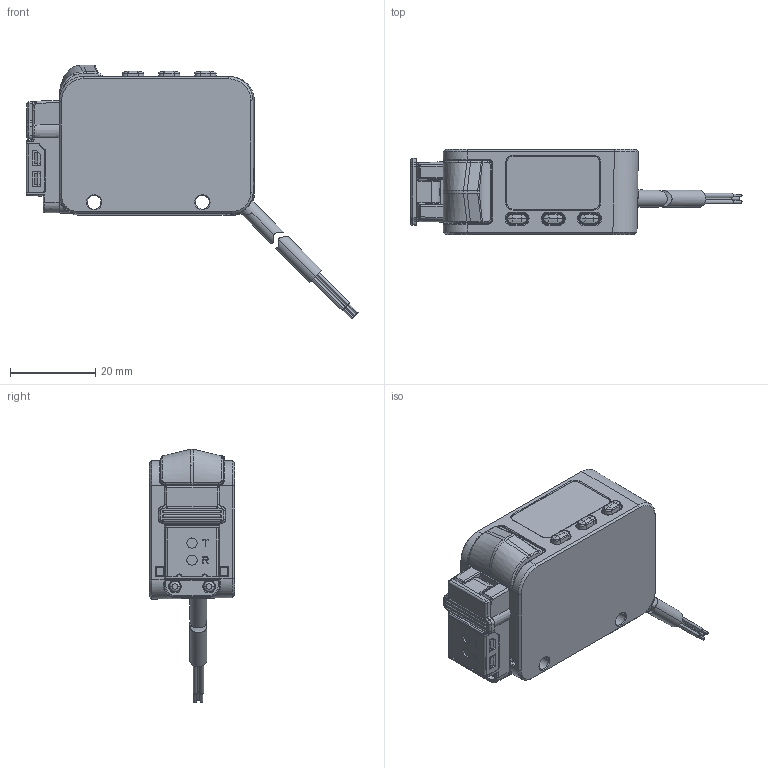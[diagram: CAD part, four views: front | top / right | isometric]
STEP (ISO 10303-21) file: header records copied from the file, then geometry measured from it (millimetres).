
FILE_DESCRIPTION((''),'2;1');
FILE_NAME('0001_ASM_ASM','2023-01-31T15:17:14',('HP'),(''),'CREO PARAMETRIC BY PTC INC, 2019224','CREO PARAMETRIC BY PTC INC, 2019224','');
FILE_SCHEMA(('CONFIG_CONTROL_DESIGN','SHAPE_APPEARANCE_LAYERS_GROUPS'));
Products named in the file (21): 50-0130030-00_1; 50-0130026-00_1; 50-0110034-0001_1; 00_1-30031_1_1; 00_1-30031_2_1; 50-0100011-00_ASM_1_ASM; 50-0130028-0001_1; 00_1; 0002_ASM_1_ASM; ST100_1; M100_1; 50-0140073-0001_1; 50-0140079-0001_1; 50-0140077-00_1; 50-0140081-00_1; 50-0140081-100_1; 50-0140081-1100_1; ADMI26984BFAE51W_ASM_1_ASM; _-202209190001_ASM_1_ASM; 0001_ASM_1_ASM; 0001_ASM_ASM
Assembly tree (21 placements, depth 5):
  0001_ASM_ASM
    0001_ASM_1_ASM
      0002_ASM_1_ASM
        50-0130030-00_1
        50-0130026-00_1
        50-0110034-0001_1
        50-0100011-00_ASM_1_ASM
          00_1-30031_1_1
          00_1-30031_2_1
        50-0130028-0001_1
        00_1  x2
      ST100_1
      M100_1
      _-202209190001_ASM_1_ASM
        ADMI26984BFAE51W_ASM_1_ASM
          50-0140073-0001_1
          50-0140079-0001_1
          50-0140077-00_1
          50-0140081-00_1
          50-0140081-100_1
          50-0140081-1100_1
Bounding box: 77.93 x 20 x 59.51 mm (x, y, z)
Volume: 30904.7 mm3; surface area: 15434.6 mm2
Topology: 14 solids, 21 shells, 1779 faces, 4627 edges, 2973 vertices
Faces by surface type: plane 871, cylinder 427, bspline 192, cone 121, extrusion 86, torus 59, sphere 23
Entity records: 80596 total; most frequent: CARTESIAN_POINT 29950, ORIENTED_EDGE 8994, DIRECTION 7451, EDGE_CURVE 4497, PRESENTATION_STYLE_ASSIGNMENT 2961, VERTEX_POINT 2900, STYLED_ITEM 2812, CURVE_STYLE 2803
